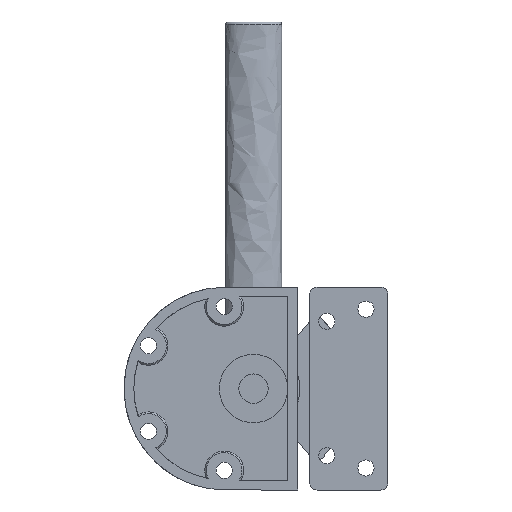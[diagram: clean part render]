
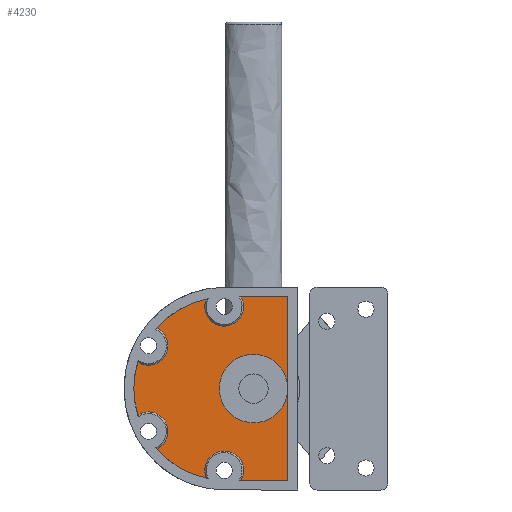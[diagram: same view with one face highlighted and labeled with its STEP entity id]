
A CAD part, front view. The second image highlights one B-rep face of the part: STEP entity #4230.
In plain terms, the highlighted planar face has unit normal (0, -1, 0).
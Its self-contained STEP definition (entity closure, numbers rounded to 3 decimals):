
#17 = DIRECTION ( 'NONE',  ( 0., 1., 0. ) ) ;
#35 = CARTESIAN_POINT ( 'NONE',  ( -23.138, 2.5, 37.5 ) ) ;
#42 = VERTEX_POINT ( 'NONE', #4880 ) ;
#122 = DIRECTION ( 'NONE',  ( 0., 0., -1. ) ) ;
#138 = ORIENTED_EDGE ( 'NONE', *, *, #5072, .T. ) ;
#290 = DIRECTION ( 'NONE',  ( 0., 0., 1. ) ) ;
#341 = AXIS2_PLACEMENT_3D ( 'NONE', #3783, #1758, #3460 ) ;
#342 = CIRCLE ( 'NONE', #5122, 7.957 ) ;
#364 = VERTEX_POINT ( 'NONE', #3425 ) ;
#451 = ORIENTED_EDGE ( 'NONE', *, *, #2138, .F. ) ;
#472 = DIRECTION ( 'NONE',  ( 0., 0., 1. ) ) ;
#493 = VERTEX_POINT ( 'NONE', #1849 ) ;
#531 = CARTESIAN_POINT ( 'NONE',  ( -30.017, 2.5, -33.5 ) ) ;
#543 = EDGE_CURVE ( 'NONE', #364, #1478, #2803, .T. ) ;
#547 = CARTESIAN_POINT ( 'NONE',  ( -37.312, 2.5, -36.677 ) ) ;
#635 = VERTEX_POINT ( 'NONE', #2793 ) ;
#672 = AXIS2_PLACEMENT_3D ( 'NONE', #1785, #17, #472 ) ;
#679 = CIRCLE ( 'NONE', #1300, 7.957 ) ;
#681 = VERTEX_POINT ( 'NONE', #4082 ) ;
#708 = DIRECTION ( 'NONE',  ( 0., 1., 0. ) ) ;
#710 = LINE ( 'NONE', #4909, #1934 ) ;
#744 = EDGE_CURVE ( 'NONE', #830, #2389, #4197, .T. ) ;
#823 = VERTEX_POINT ( 'NONE', #2415 ) ;
#830 = VERTEX_POINT ( 'NONE', #2442 ) ;
#851 = CARTESIAN_POINT ( 'NONE',  ( -61.017, 2.5, -17.5 ) ) ;
#861 = CARTESIAN_POINT ( 'NONE',  ( -29.5, 2.5, 0. ) ) ;
#919 = DIRECTION ( 'NONE',  ( 0., 0., -1. ) ) ;
#967 = CIRCLE ( 'NONE', #1309, 37.5 ) ;
#1105 = EDGE_CURVE ( 'NONE', #2506, #635, #2348, .T. ) ;
#1118 = CARTESIAN_POINT ( 'NONE',  ( -4.017, 2.5, -37.5 ) ) ;
#1196 = AXIS2_PLACEMENT_3D ( 'NONE', #3518, #5207, #1403 ) ;
#1214 = VECTOR ( 'NONE', #3476, 1000. ) ;
#1300 = AXIS2_PLACEMENT_3D ( 'NONE', #1806, #3204, #3962 ) ;
#1304 = CARTESIAN_POINT ( 'NONE',  ( -18.017, 2.5, 0. ) ) ;
#1309 = AXIS2_PLACEMENT_3D ( 'NONE', #1930, #3628, #3220 ) ;
#1314 = VECTOR ( 'NONE', #919, 1000. ) ;
#1341 = ORIENTED_EDGE ( 'NONE', *, *, #1536, .T. ) ;
#1352 = DIRECTION ( 'NONE',  ( 0., 0., 1. ) ) ;
#1361 = DIRECTION ( 'NONE',  ( 0., 0., 1. ) ) ;
#1384 = ORIENTED_EDGE ( 'NONE', *, *, #3768, .T. ) ;
#1403 = DIRECTION ( 'NONE',  ( 0., 0., 1. ) ) ;
#1408 = AXIS2_PLACEMENT_3D ( 'NONE', #2042, #2010, #5016 ) ;
#1478 = VERTEX_POINT ( 'NONE', #5431 ) ;
#1508 = ORIENTED_EDGE ( 'NONE', *, *, #2507, .F. ) ;
#1536 = EDGE_CURVE ( 'NONE', #2634, #364, #4926, .T. ) ;
#1570 = CIRCLE ( 'NONE', #4675, 37.5 ) ;
#1758 = DIRECTION ( 'NONE',  ( 0., 1., 0. ) ) ;
#1785 = CARTESIAN_POINT ( 'NONE',  ( -29.5, 2.5, 0. ) ) ;
#1806 = CARTESIAN_POINT ( 'NONE',  ( -61.017, 2.5, 17.5 ) ) ;
#1837 = EDGE_CURVE ( 'NONE', #681, #635, #679, .T. ) ;
#1849 = CARTESIAN_POINT ( 'NONE',  ( -30.017, 2.5, -25.543 ) ) ;
#1921 = ORIENTED_EDGE ( 'NONE', *, *, #3347, .T. ) ;
#1930 = CARTESIAN_POINT ( 'NONE',  ( -29.5, 2.5, 0. ) ) ;
#1934 = VECTOR ( 'NONE', #122, 1000. ) ;
#2010 = DIRECTION ( 'NONE',  ( 0., 1., 0. ) ) ;
#2042 = CARTESIAN_POINT ( 'NONE',  ( -30.017, 2.5, 33.5 ) ) ;
#2115 = CIRCLE ( 'NONE', #1408, 7.957 ) ;
#2138 = EDGE_CURVE ( 'NONE', #5417, #823, #4716, .T. ) ;
#2303 = ORIENTED_EDGE ( 'NONE', *, *, #4803, .T. ) ;
#2341 = CARTESIAN_POINT ( 'NONE',  ( -65.394, 2.5, -10.856 ) ) ;
#2348 = CIRCLE ( 'NONE', #672, 37.5 ) ;
#2389 = VERTEX_POINT ( 'NONE', #4526 ) ;
#2415 = CARTESIAN_POINT ( 'NONE',  ( -4.017, 2.5, 37.5 ) ) ;
#2442 = CARTESIAN_POINT ( 'NONE',  ( -61.017, 2.5, -9.543 ) ) ;
#2469 = EDGE_CURVE ( 'NONE', #4247, #2389, #1570, .T. ) ;
#2506 = VERTEX_POINT ( 'NONE', #2341 ) ;
#2507 = EDGE_CURVE ( 'NONE', #681, #42, #967, .T. ) ;
#2515 = AXIS2_PLACEMENT_3D ( 'NONE', #4149, #4096, #290 ) ;
#2544 = CARTESIAN_POINT ( 'NONE',  ( -0.017, 2.5, 37.5 ) ) ;
#2591 = CARTESIAN_POINT ( 'NONE',  ( -0.017, 2.5, -37.5 ) ) ;
#2634 = VERTEX_POINT ( 'NONE', #3435 ) ;
#2641 = ORIENTED_EDGE ( 'NONE', *, *, #4545, .T. ) ;
#2793 = CARTESIAN_POINT ( 'NONE',  ( -65.394, 2.5, 10.856 ) ) ;
#2803 = CIRCLE ( 'NONE', #1196, 14. ) ;
#2926 = CIRCLE ( 'NONE', #341, 7.957 ) ;
#2993 = DIRECTION ( 'NONE',  ( 0., 0., 1. ) ) ;
#3012 = DIRECTION ( 'NONE',  ( 0., 0., 1. ) ) ;
#3019 = CIRCLE ( 'NONE', #3370, 7.957 ) ;
#3154 = VERTEX_POINT ( 'NONE', #1118 ) ;
#3155 = LINE ( 'NONE', #2591, #4789 ) ;
#3199 = ORIENTED_EDGE ( 'NONE', *, *, #4304, .F. ) ;
#3204 = DIRECTION ( 'NONE',  ( 0., 1., 0. ) ) ;
#3220 = DIRECTION ( 'NONE',  ( 0., 0., 1. ) ) ;
#3237 = EDGE_CURVE ( 'NONE', #823, #364, #710, .T. ) ;
#3347 = EDGE_CURVE ( 'NONE', #2506, #830, #3019, .T. ) ;
#3370 = AXIS2_PLACEMENT_3D ( 'NONE', #851, #4162, #2993 ) ;
#3377 = EDGE_CURVE ( 'NONE', #3154, #3810, #3155, .T. ) ;
#3425 = CARTESIAN_POINT ( 'NONE',  ( -4.017, 2.5, 0. ) ) ;
#3435 = CARTESIAN_POINT ( 'NONE',  ( -18.017, 2.5, 14. ) ) ;
#3459 = CIRCLE ( 'NONE', #3622, 14. ) ;
#3460 = DIRECTION ( 'NONE',  ( 0., 0., 1. ) ) ;
#3476 = DIRECTION ( 'NONE',  ( 1., 0., 0. ) ) ;
#3478 = ORIENTED_EDGE ( 'NONE', *, *, #1837, .T. ) ;
#3518 = CARTESIAN_POINT ( 'NONE',  ( -18.017, 2.5, 0. ) ) ;
#3622 = AXIS2_PLACEMENT_3D ( 'NONE', #1304, #4697, #3012 ) ;
#3628 = DIRECTION ( 'NONE',  ( 0., 1., 0. ) ) ;
#3652 = CARTESIAN_POINT ( 'NONE',  ( -29.5, 2.5, 0. ) ) ;
#3666 = ORIENTED_EDGE ( 'NONE', *, *, #3377, .F. ) ;
#3768 = EDGE_CURVE ( 'NONE', #493, #3810, #342, .T. ) ;
#3783 = CARTESIAN_POINT ( 'NONE',  ( -30.017, 2.5, -33.5 ) ) ;
#3810 = VERTEX_POINT ( 'NONE', #4232 ) ;
#3846 = PLANE ( 'NONE',  #4956 ) ;
#3906 = LINE ( 'NONE', #4715, #1314 ) ;
#3938 = DIRECTION ( 'NONE',  ( 0., 1., 0. ) ) ;
#3962 = DIRECTION ( 'NONE',  ( 0., 0., 1. ) ) ;
#4022 = ORIENTED_EDGE ( 'NONE', *, *, #2469, .F. ) ;
#4082 = CARTESIAN_POINT ( 'NONE',  ( -57.691, 2.5, 24.729 ) ) ;
#4085 = DIRECTION ( 'NONE',  ( 0., 0., 1. ) ) ;
#4096 = DIRECTION ( 'NONE',  ( 0., 1., 0. ) ) ;
#4141 = DIRECTION ( 'NONE',  ( 0., 1., 0. ) ) ;
#4149 = CARTESIAN_POINT ( 'NONE',  ( -18.017, 2.5, 0. ) ) ;
#4162 = DIRECTION ( 'NONE',  ( 0., 1., 0. ) ) ;
#4197 = CIRCLE ( 'NONE', #4932, 7.957 ) ;
#4230 = ADVANCED_FACE ( 'NONE', ( #5132 ), #3846, .F. ) ;
#4232 = CARTESIAN_POINT ( 'NONE',  ( -23.138, 2.5, -37.5 ) ) ;
#4247 = VERTEX_POINT ( 'NONE', #547 ) ;
#4304 = EDGE_CURVE ( 'NONE', #364, #3154, #3906, .T. ) ;
#4380 = DIRECTION ( 'NONE',  ( -1., 0., 0. ) ) ;
#4523 = CARTESIAN_POINT ( 'NONE',  ( -61.017, 2.5, -17.5 ) ) ;
#4526 = CARTESIAN_POINT ( 'NONE',  ( -57.691, 2.5, -24.729 ) ) ;
#4545 = EDGE_CURVE ( 'NONE', #5417, #42, #2115, .T. ) ;
#4610 = ORIENTED_EDGE ( 'NONE', *, *, #744, .T. ) ;
#4649 = ORIENTED_EDGE ( 'NONE', *, *, #1105, .F. ) ;
#4652 = DIRECTION ( 'NONE',  ( 0., 1., 0. ) ) ;
#4675 = AXIS2_PLACEMENT_3D ( 'NONE', #3652, #4141, #4887 ) ;
#4697 = DIRECTION ( 'NONE',  ( 0., 1., 0. ) ) ;
#4715 = CARTESIAN_POINT ( 'NONE',  ( -4.017, 2.5, -41.5 ) ) ;
#4716 = LINE ( 'NONE', #2544, #1214 ) ;
#4731 = ORIENTED_EDGE ( 'NONE', *, *, #3237, .F. ) ;
#4789 = VECTOR ( 'NONE', #4380, 1000. ) ;
#4803 = EDGE_CURVE ( 'NONE', #4247, #493, #2926, .T. ) ;
#4880 = CARTESIAN_POINT ( 'NONE',  ( -37.312, 2.5, 36.677 ) ) ;
#4887 = DIRECTION ( 'NONE',  ( 0., 0., 1. ) ) ;
#4909 = CARTESIAN_POINT ( 'NONE',  ( -4.017, 2.5, -41.5 ) ) ;
#4926 = CIRCLE ( 'NONE', #2515, 14. ) ;
#4932 = AXIS2_PLACEMENT_3D ( 'NONE', #4523, #708, #4085 ) ;
#4956 = AXIS2_PLACEMENT_3D ( 'NONE', #861, #4652, #1352 ) ;
#5016 = DIRECTION ( 'NONE',  ( 0., 0., 1. ) ) ;
#5072 = EDGE_CURVE ( 'NONE', #1478, #2634, #3459, .T. ) ;
#5122 = AXIS2_PLACEMENT_3D ( 'NONE', #531, #3938, #1361 ) ;
#5132 = FACE_OUTER_BOUND ( 'NONE', #5468, .T. ) ;
#5207 = DIRECTION ( 'NONE',  ( 0., 1., 0. ) ) ;
#5361 = ORIENTED_EDGE ( 'NONE', *, *, #543, .T. ) ;
#5417 = VERTEX_POINT ( 'NONE', #35 ) ;
#5431 = CARTESIAN_POINT ( 'NONE',  ( -18.017, 2.5, -14. ) ) ;
#5468 = EDGE_LOOP ( 'NONE', ( #1508, #3478, #4649, #1921, #4610, #4022, #2303, #1384, #3666, #3199, #5361, #138, #1341, #4731, #451, #2641 ) ) ;
